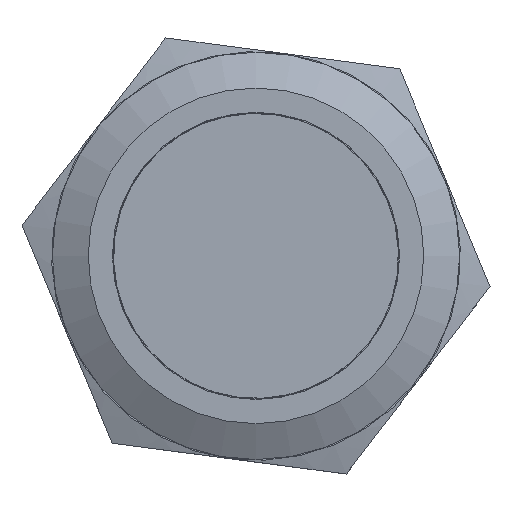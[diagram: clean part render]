
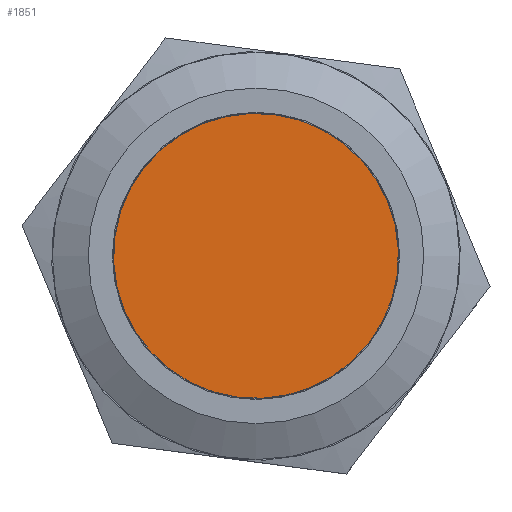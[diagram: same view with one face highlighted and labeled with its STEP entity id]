
A CAD part, top view. The second image highlights one B-rep face of the part: STEP entity #1851.
In plain terms, the highlighted planar face has unit normal (0, 0, 1) as drawn and (0, 0, -1) by its records, which use the part's own axes.
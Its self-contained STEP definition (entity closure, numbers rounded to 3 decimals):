
#1596=PLANE('',#4436);
#1851=ADVANCED_FACE('',(#2074),#1596,.F.);
#2074=FACE_OUTER_BOUND('',#2274,.T.);
#2274=EDGE_LOOP('',(#2667));
#2511=CIRCLE('',#4435,9.725);
#2667=ORIENTED_EDGE('',*,*,#3855,.F.);
#3535=VERTEX_POINT('',#7489);
#3855=EDGE_CURVE('',#3535,#3535,#2511,.T.);
#4435=AXIS2_PLACEMENT_3D('',#7488,#4799,#4800);
#4436=AXIS2_PLACEMENT_3D('',#7490,#4801,#4802);
#4799=DIRECTION('',(0.,0.,1.));
#4800=DIRECTION('',(1.,0.,0.));
#4801=DIRECTION('',(0.,0.,1.));
#4802=DIRECTION('',(1.,0.,0.));
#7488=CARTESIAN_POINT('',(0.,0.,-1.85));
#7489=CARTESIAN_POINT('',(9.725,0.,-1.85));
#7490=CARTESIAN_POINT('',(0.,0.,-1.85));
